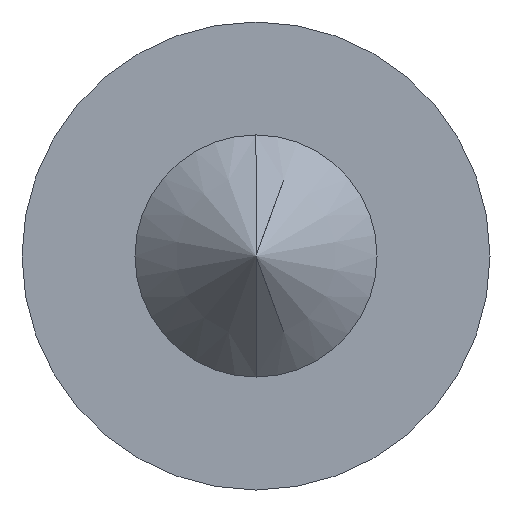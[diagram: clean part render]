
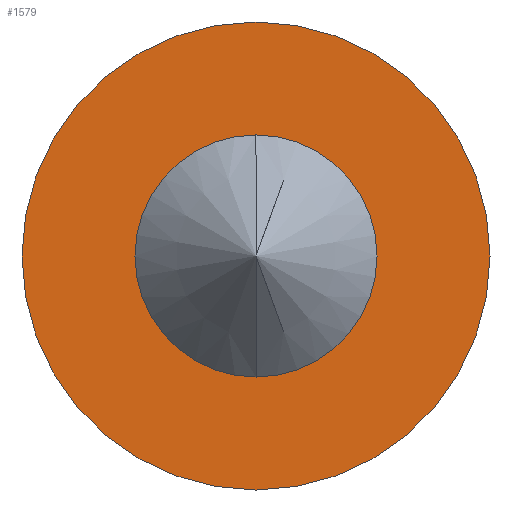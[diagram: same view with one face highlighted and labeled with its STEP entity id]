
A CAD part, left-side view. The second image highlights one B-rep face of the part: STEP entity #1579.
In plain terms, the highlighted planar face has unit normal (-1, 0, 0).
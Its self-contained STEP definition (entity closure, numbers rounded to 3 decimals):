
#117 = AXIS2_PLACEMENT_3D ( 'NONE', #166, #398, #1066 ) ;
#136 = DIRECTION ( 'NONE',  ( 1., 0., 0. ) ) ;
#139 = DIRECTION ( 'NONE',  ( -1., 0., 0. ) ) ;
#166 = CARTESIAN_POINT ( 'NONE',  ( -7.845, 0., 0. ) ) ;
#233 = ORIENTED_EDGE ( 'NONE', *, *, #720, .F. ) ;
#244 = AXIS2_PLACEMENT_3D ( 'NONE', #425, #419, #413 ) ;
#281 = CARTESIAN_POINT ( 'NONE',  ( -7.845, 0., -2.9 ) ) ;
#320 = AXIS2_PLACEMENT_3D ( 'NONE', #556, #541, #568 ) ;
#342 = EDGE_CURVE ( 'NONE', #1622, #1623, #1628, .T. ) ;
#360 = EDGE_CURVE ( 'NONE', #1509, #1564, #1608, .T. ) ;
#398 = DIRECTION ( 'NONE',  ( -1., 0., 0. ) ) ;
#413 = DIRECTION ( 'NONE',  ( 0., 0., 1. ) ) ;
#419 = DIRECTION ( 'NONE',  ( -1., 0., 0. ) ) ;
#424 = ORIENTED_EDGE ( 'NONE', *, *, #1636, .T. ) ;
#425 = CARTESIAN_POINT ( 'NONE',  ( -7.845, 0., 0. ) ) ;
#541 = DIRECTION ( 'NONE',  ( -1., 0., 0. ) ) ;
#556 = CARTESIAN_POINT ( 'NONE',  ( -7.845, 0., 0. ) ) ;
#568 = DIRECTION ( 'NONE',  ( 0., 0., 1. ) ) ;
#601 = ORIENTED_EDGE ( 'NONE', *, *, #342, .T. ) ;
#692 = EDGE_LOOP ( 'NONE', ( #871, #233 ) ) ;
#720 = EDGE_CURVE ( 'NONE', #1564, #1509, #1535, .T. ) ;
#740 = PLANE ( 'NONE',  #1555 ) ;
#871 = ORIENTED_EDGE ( 'NONE', *, *, #360, .F. ) ;
#873 = AXIS2_PLACEMENT_3D ( 'NONE', #1026, #139, #1019 ) ;
#1017 = CARTESIAN_POINT ( 'NONE',  ( -7.845, 1.202, 0. ) ) ;
#1019 = DIRECTION ( 'NONE',  ( 0., 0., 1. ) ) ;
#1026 = CARTESIAN_POINT ( 'NONE',  ( -7.845, 0., 0. ) ) ;
#1033 = EDGE_LOOP ( 'NONE', ( #601, #424 ) ) ;
#1047 = FACE_BOUND ( 'NONE', #692, .T. ) ;
#1066 = DIRECTION ( 'NONE',  ( 0., 0., 1. ) ) ;
#1115 = CARTESIAN_POINT ( 'NONE',  ( -7.845, 0., -1.202 ) ) ;
#1127 = FACE_OUTER_BOUND ( 'NONE', #1033, .T. ) ;
#1146 = CARTESIAN_POINT ( 'NONE',  ( -7.845, 0., 1.202 ) ) ;
#1159 = DIRECTION ( 'NONE',  ( 0., 0., -1. ) ) ;
#1437 = CARTESIAN_POINT ( 'NONE',  ( -7.845, 0., 2.9 ) ) ;
#1509 = VERTEX_POINT ( 'NONE', #1115 ) ;
#1535 = CIRCLE ( 'NONE', #117, 1.202 ) ;
#1555 = AXIS2_PLACEMENT_3D ( 'NONE', #1017, #136, #1159 ) ;
#1564 = VERTEX_POINT ( 'NONE', #1146 ) ;
#1579 = ADVANCED_FACE ( 'NONE', ( #1047, #1127 ), #740, .F. ) ;
#1608 = CIRCLE ( 'NONE', #244, 1.202 ) ;
#1622 = VERTEX_POINT ( 'NONE', #1437 ) ;
#1623 = VERTEX_POINT ( 'NONE', #281 ) ;
#1628 = CIRCLE ( 'NONE', #320, 2.9 ) ;
#1636 = EDGE_CURVE ( 'NONE', #1623, #1622, #1649, .T. ) ;
#1649 = CIRCLE ( 'NONE', #873, 2.9 ) ;
